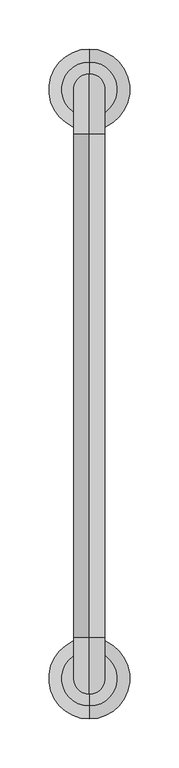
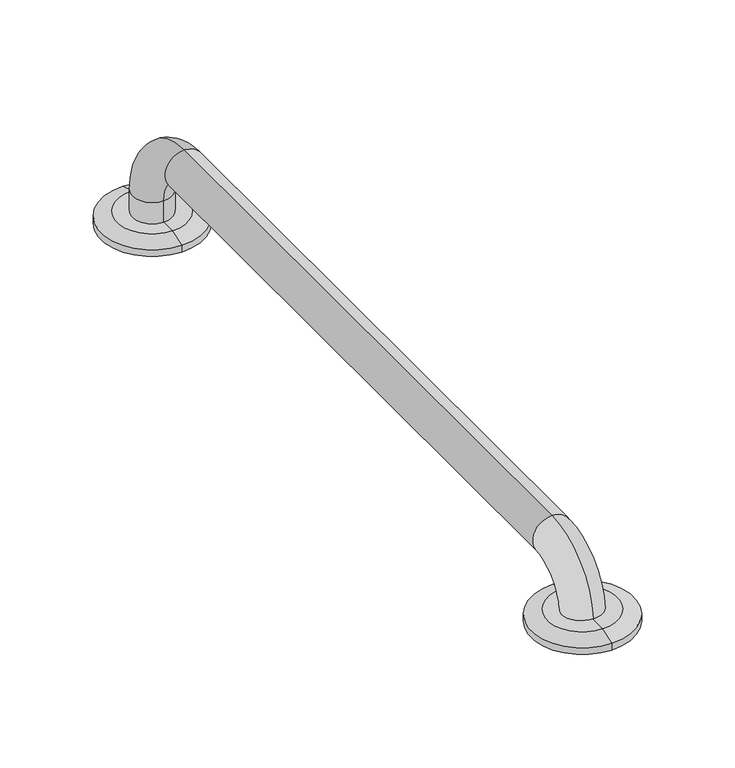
"""IFC4 building model written with IfcOpenShell, lengths in millimetres: flow terminal geometry, GrapBar-60cm-Vitra-OtherSeries-320-3010 : SupportRail-Vitra-OtherSeries-320-3010."""

import ifcopenshell
import ifcopenshell.guid

model = None  # the IFC model being written
_history = None  # IfcOwnerHistory: only IFC2X3 demands one
_inside = {}  # id of a spatial element -> (the spatial element, [elements in it])
_under = {}  # id of a project, library or spatial element -> (it, [spatial elements below it])
_declared = {}  # id of a project -> (the project, [libraries it declares])
_typed = {}  # id of a type object -> (the type object, [elements of that type])
_made_of = {}  # id of a material, layer set ... -> (it, [elements and type objects made of it])


def new_model(schema):
    """Start an empty IFC model of exactly this schema.

    Asked for "IFC4X3", IfcOpenShell would pick the latest addendum, in which some entities
    have other attributes; the version numbers below select the first issue.
    IFC2X3 requires an IfcOwnerHistory on every rooted entity: one is made here for all.
    """
    global model, _history
    if schema == "IFC4X3":
        model = ifcopenshell.file(schema_version=(4, 3, 0, 0))
    else:
        model = ifcopenshell.file(schema=schema)
    _inside.clear()
    _under.clear()
    _declared.clear()
    _typed.clear()
    _made_of.clear()
    _history = None
    if model.schema == "IFC2X3":
        org = make("IfcOrganization", Name="unknown")
        user = make(
            "IfcPersonAndOrganization",
            ThePerson=make("IfcPerson", FamilyName="unknown"),
            TheOrganization=org,
        )
        app = make(
            "IfcApplication",
            ApplicationDeveloper=org,
            Version="unknown",
            ApplicationFullName="unknown",
            ApplicationIdentifier="unknown",
        )
        _history = make(
            "IfcOwnerHistory",
            OwningUser=user,
            OwningApplication=app,
            ChangeAction="ADDED",
            CreationDate=0,
        )
    return model


def make(cls, **values):
    """One entity of the class cls with the attributes given. An attribute that is None is left unset."""
    return model.create_entity(
        cls, **{name: value for name, value in values.items() if value is not None}
    )


def rooted(cls, **values):
    """An entity with a GlobalId (a new one), such as an element, a storey or a relation."""
    return make(cls, GlobalId=ifcopenshell.guid.new(), OwnerHistory=_history, **values)


def si_unit(unit_type, name, prefix=None):
    """IfcSIUnit, for example si_unit("LENGTHUNIT", "METRE", prefix="MILLI")."""
    return make("IfcSIUnit", UnitType=unit_type, Prefix=prefix, Name=name)


def assignment(units):
    """IfcUnitAssignment: the units of a project."""
    return None if units is None else make("IfcUnitAssignment", Units=units)


def point(xyz):
    """IfcCartesianPoint."""
    return None if xyz is None else make("IfcCartesianPoint", Coordinates=xyz)


def direction(xyz):
    """IfcDirection."""
    return None if xyz is None else make("IfcDirection", DirectionRatios=xyz)


def frame(location, z_axis=None, x_axis=None):
    """IfcAxis2Placement3D, a coordinate frame: its origin and axes. An axis left out is left unset."""
    return make(
        "IfcAxis2Placement3D",
        Location=point(location),
        Axis=direction(z_axis),
        RefDirection=direction(x_axis),
    )


def origin():
    """The frame at (0, 0, 0) with its axes left unset."""
    return frame((0.0, 0.0, 0.0))


def place(relative_to, where):
    """IfcLocalPlacement: puts the frame where relative to a parent placement (None: the world)."""
    return make(
        "IfcLocalPlacement", PlacementRelTo=relative_to, RelativePlacement=where
    )


def context(
    kind, dimensions, precision=None, world=None, true_north=None, identifier=None
):
    """IfcGeometricRepresentationContext, for example the 3D "Model" context."""
    return make(
        "IfcGeometricRepresentationContext",
        ContextIdentifier=identifier,
        ContextType=kind,
        CoordinateSpaceDimension=dimensions,
        Precision=precision,
        WorldCoordinateSystem=world,
        TrueNorth=true_north,
    )


def project(units=None, contexts=None):
    """IfcProject with its units and contexts."""
    return rooted(
        "IfcProject",
        Name="project",
        RepresentationContexts=contexts,
        UnitsInContext=assignment(units),
    )


def spatial(cls, under=None, at=None, **own):
    """A site, building, storey or space (cls), placed at a placement, below another one or the project."""
    s = rooted(cls, ObjectPlacement=at, **own)
    if under is not None:
        _under.setdefault(under.id(), (under, []))[1].append(s)
    return s


def polyline(points):
    """IfcPolyline through the points."""
    return make("IfcPolyline", Points=[point(p) for p in points])


def circle_curve(where, radius):
    """IfcCircle in the frame where."""
    return make("IfcCircle", Position=where, Radius=radius)


def ellipse_curve(where, semi_axis1, semi_axis2):
    """IfcEllipse in the frame where."""
    return make(
        "IfcEllipse", Position=where, SemiAxis1=semi_axis1, SemiAxis2=semi_axis2
    )


def trimmed(basis, trim1, trim2, sense, master):
    """IfcTrimmedCurve: the piece of a basis curve between two trims."""
    return make(
        "IfcTrimmedCurve",
        BasisCurve=basis,
        Trim1=trim1,
        Trim2=trim2,
        SenseAgreement=sense,
        MasterRepresentation=master,
    )


def shape(context_of_items, identifier, shape_type, items):
    """IfcShapeRepresentation: the items that make up one representation, for example the "Body"."""
    return make(
        "IfcShapeRepresentation",
        ContextOfItems=context_of_items,
        RepresentationIdentifier=identifier,
        RepresentationType=shape_type,
        Items=items,
    )


def source(mapping_origin, context_of_items, identifier, shape_type, items):
    """IfcRepresentationMap: a shape defined once, which mapped items show again and again."""
    return make(
        "IfcRepresentationMap",
        MappingOrigin=mapping_origin,
        MappedRepresentation=shape(context_of_items, identifier, shape_type, items),
    )


def transform(
    local_origin,
    x_axis=None,
    y_axis=None,
    z_axis=None,
    scale=None,
    scale2=None,
    scale3=None,
    uniform=True,
):
    """IfcCartesianTransformationOperator3D, or its non-uniform kind. x_axis, y_axis, z_axis: its Axis1, 2, 3."""
    if uniform:
        return make(
            "IfcCartesianTransformationOperator3D",
            Axis1=direction(x_axis),
            Axis2=direction(y_axis),
            LocalOrigin=point(local_origin),
            Scale=scale,
            Axis3=direction(z_axis),
        )
    return make(
        "IfcCartesianTransformationOperator3DnonUniform",
        Axis1=direction(x_axis),
        Axis2=direction(y_axis),
        LocalOrigin=point(local_origin),
        Scale=scale,
        Axis3=direction(z_axis),
        Scale2=scale2,
        Scale3=scale3,
    )


def mapped(mapping_source, mapping_target):
    """IfcMappedItem: shows the shape of a source again, moved by a transform."""
    return make(
        "IfcMappedItem", MappingSource=mapping_source, MappingTarget=mapping_target
    )


def made_of(thing, what):
    """Note that an element or type object is made of a material, layer set ...; save() writes the relation."""
    if what is not None:
        _made_of.setdefault(what.id(), (what, []))[1].append(thing)
    return thing


def element(
    cls,
    number,
    at=None,
    inside=None,
    cuts=None,
    type_object=None,
    material=None,
    context=None,
    identifier="Body",
    shape_type=None,
    held_by="IfcProductDefinitionShape",
    body=None,
    shapes=None,
    **own,
):
    """One element of the class cls, such as IfcWall. Its Tag is "e" and its number.

    at: its placement. inside: the storey or other place that contains it. cuts: it is an
    opening in that element (IfcRelVoidsElement). A single representation is given by context,
    identifier, shape_type and body (its items); several are given by shapes. held_by: the class
    of the entity that holds the representations. save() writes the other relations.
    """
    e = rooted(cls, Tag="e%d" % number, ObjectPlacement=at, **own)
    if body is not None:
        shapes = [shape(context, identifier, shape_type, body)]
    if shapes is not None:
        e.Representation = make(held_by, Representations=shapes)
    if inside is not None:
        _inside.setdefault(inside.id(), (inside, []))[1].append(e)
    if cuts is not None:
        rooted(
            "IfcRelVoidsElement", RelatingBuildingElement=cuts, RelatedOpeningElement=e
        )
    if type_object is not None:
        _typed.setdefault(type_object.id(), (type_object, []))[1].append(e)
    return made_of(e, material)


def aggregate(whole, parts):
    """IfcRelAggregates: a whole, such as a stair, and the parts it consists of."""
    return rooted("IfcRelAggregates", RelatingObject=whole, RelatedObjects=parts)


def save(model, path):
    """Write the relations noted so far, then the file.

    IfcRelAggregates (storeys below a building ...), IfcRelContainedInSpatialStructure (elements
    in a storey), IfcRelDefinesByType, IfcRelAssociatesMaterial and IfcRelDeclares: one each for
    every whole, place, type object, material and project.
    """
    for whole, parts in _under.values():
        aggregate(whole, parts)
    for where, things in _inside.values():
        rooted(
            "IfcRelContainedInSpatialStructure",
            RelatedElements=things,
            RelatingStructure=where,
        )
    for kind, things in _typed.values():
        rooted("IfcRelDefinesByType", RelatedObjects=things, RelatingType=kind)
    for what, things in _made_of.values():
        rooted("IfcRelAssociatesMaterial", RelatedObjects=things, RelatingMaterial=what)
    for by, libraries in _declared.values():
        rooted("IfcRelDeclares", RelatingContext=by, RelatedDefinitions=libraries)
    model.write(path)


def plane_surface(at):
    """IfcPlane: the flat surface through the origin of the frame at, square to its z axis."""
    return make("IfcPlane", Position=at)


def cylinder_surface(at, radius):
    """IfcCylindricalSurface: all points at the distance radius from the z axis of the frame at."""
    return make("IfcCylindricalSurface", Position=at, Radius=radius)


def revolved_surface(curve, axis_point, axis_direction):
    """IfcSurfaceOfRevolution: the curve turned about the line through axis_point along axis_direction."""
    return make(
        "IfcSurfaceOfRevolution",
        SweptCurve=make("IfcArbitraryOpenProfileDef", ProfileType="CURVE", Curve=curve),
        AxisPosition=make("IfcAxis1Placement", Location=point(axis_point), Axis=direction(axis_direction)),
    )


def advanced_brep(points, edges, surfaces, faces):
    """IfcAdvancedBrep: a solid bounded by faces that lie on surfaces and meet in shared edges.

    An edge is (start, end): straight between two places in points (the first is 0);
    or (start, end, curve); or (start, end, curve, False) where it runs against its curve.
    A face is (place in surfaces, loops), or (place, loops, False) where it looks against
    its surface's normal. A loop lists edges by number (the first is 1), with a minus sign
    where the edge is run from its end to its start. The first loop is the outer one.
    """
    corners = [point(p) for p in points]
    vertices = [make("IfcVertexPoint", VertexGeometry=c) for c in corners]
    made = []
    for start, end, *more in edges:
        made.append(
            make(
                "IfcEdgeCurve",
                EdgeStart=vertices[start],
                EdgeEnd=vertices[end],
                EdgeGeometry=more[0] if more else make("IfcPolyline", Points=[corners[start], corners[end]]),
                SameSense=more[1] if len(more) > 1 else True,
            )
        )
    hull = []
    for where, loops, *sense in faces:
        bounds = []
        for j, loop in enumerate(loops):
            ring = [make("IfcOrientedEdge", EdgeElement=made[abs(k) - 1], Orientation=k > 0) for k in loop]
            bounds.append(
                make(
                    "IfcFaceOuterBound" if j == 0 else "IfcFaceBound",
                    Bound=make("IfcEdgeLoop", EdgeList=ring),
                    Orientation=True,
                )
            )
        hull.append(make("IfcAdvancedFace", Bounds=bounds, FaceSurface=surfaces[where], SameSense=sense[0] if sense else True))
    return make("IfcAdvancedBrep", Outer=make("IfcClosedShell", CfsFaces=hull))


def flow_terminal_b75d90eb(model_context):
    return source(origin(), model_context, "Body", "AdvancedBrep", [
        advanced_brep(
        [(-1.6, 271.9462683, 10.05625), (-1.6, 284.0, 10.05625), (-1.6, 316.0, 10.05625), (-1.6, 328.0537317, 10.05625), (-1.6, 341.2537317, 5.8762664), (-1.6, 258.7462683, 5.8762664), (-1.6, 341.2537317, 0.05625), (-1.6, 258.7462683, 0.05625), (-1.6, 300.0, 0.05625), (-1.6, 316.0, 28.2511186), (-1.6, 284.0, 28.2511186), (-1.6, 255.0, 89.2511186), (-1.6, 255.0, 57.2511186), (-1.6, -258.0, 89.2511186), (-1.6, -258.0, 57.2511186), (-1.6, -284.0718819, 33.5413066), (-1.6, -315.9281181, 36.5711934)],
        [
            (0, 1),
            (1, 2, circle_curve(frame((-1.6, 300.0, 10.05625), z_axis=(0.0, 0.0, -1.0), x_axis=(0.0, 1.0, 0.0)), 16.0)),
            (2, 3),
            (3, 0, circle_curve(frame((-1.6, 300.0, 10.05625), z_axis=(0.0, 0.0, 1.0), x_axis=(0.0, 1.0, 0.0)), 28.0537317)),
            (2, 1, circle_curve(frame((-1.6, 300.0, 10.05625), z_axis=(0.0, 0.0, -1.0), x_axis=(0.0, 1.0, 0.0)), 16.0)),
            (0, 3, circle_curve(frame((-1.6, 300.0, 10.05625), z_axis=(0.0, 0.0, 1.0), x_axis=(0.0, 1.0, 0.0)), 28.0537317)),
            (3, 4),
            (4, 5, circle_curve(frame((-1.6, 300.0, 5.8762664), z_axis=(0.0, 0.0, 1.0), x_axis=(0.0, 1.0, 0.0)), 41.2537317)),
            (5, 0),
            (5, 4, circle_curve(frame((-1.6, 300.0, 5.8762664), z_axis=(0.0, 0.0, 1.0), x_axis=(0.0, 1.0, 0.0)), 41.2537317)),
            (4, 6),
            (6, 7, circle_curve(frame((-1.6, 300.0, 0.05625), z_axis=(0.0, 0.0, 1.0), x_axis=(0.0, 1.0, 0.0)), 41.2537317)),
            (7, 5),
            (7, 6, circle_curve(frame((-1.6, 300.0, 0.05625), z_axis=(0.0, 0.0, 1.0), x_axis=(0.0, 1.0, 0.0)), 41.2537317)),
            (6, 8),
            (8, 7),
            (2, 9),
            (9, 10, circle_curve(frame((-1.6, 300.0, 28.2511186), z_axis=(0.0, 0.0, -1.0), x_axis=(0.0, 1.0, 0.0)), 16.0)),
            (10, 1),
            (10, 9, circle_curve(frame((-1.6, 300.0, 28.2511186), z_axis=(0.0, 0.0, -1.0), x_axis=(0.0, 1.0, 0.0)), 16.0)),
            (9, 11, circle_curve(frame((-1.6, 255.0, 28.2511186), z_axis=(1.0, 0.0, 0.0), x_axis=(0.0, 1.0, 0.0)), 61.0)),
            (11, 12, circle_curve(frame((-1.6, 255.0, 73.2511186), z_axis=(0.0, 1.0, 0.0), x_axis=(0.0, 0.0, 1.0)), 16.0)),
            (12, 10, circle_curve(frame((-1.6, 255.0, 28.2511186), z_axis=(-1.0, 0.0, 0.0), x_axis=(0.0, 1.0, 0.0)), 29.0)),
            (12, 11, circle_curve(frame((-1.6, 255.0, 73.2511186), z_axis=(0.0, 1.0, 0.0), x_axis=(0.0, 0.0, 1.0)), 16.0)),
            (11, 13),
            (13, 14, circle_curve(frame((-1.6, -258.0, 73.2511186), z_axis=(0.0, 1.0, 0.0), x_axis=(0.0, 0.0, 1.0)), 16.0)),
            (14, 12),
            (14, 13, circle_curve(frame((-1.6, -258.0, 73.2511186), z_axis=(0.0, 1.0, 0.0), x_axis=(0.0, 0.0, 1.0)), 16.0)),
            (15, 16, circle_curve(frame((-1.6, -300.0, 35.05625), z_axis=(0.0, -0.09468396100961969, -0.9955073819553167), x_axis=(0.0, -0.9955073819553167, 0.09468396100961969)), 16.0)),
            (16, 15, circle_curve(frame((-1.6, -300.0, 35.05625), z_axis=(0.0, -0.09468396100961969, -0.9955073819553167), x_axis=(0.0, -0.9955073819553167, 0.09468396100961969)), 16.0)),
            (13, 16, circle_curve(frame((-1.6, -258.0, 31.0615771), z_axis=(1.0, 0.0, 0.0), x_axis=(0.0, 0.0, 1.0)), 58.1895415)),
            (15, 14, circle_curve(frame((-1.6, -258.0, 31.0615771), z_axis=(-1.0, 0.0, 0.0), x_axis=(0.0, 0.0, 1.0)), 26.1895415)),
        ],
        [
            plane_surface(frame((-1.6, 300.0, 10.05625), z_axis=(0.0, 0.0, 1.0), x_axis=(0.0, 1.0, 0.0))),
            revolved_surface(polyline([(-1.6, 328.0537317, 10.05625), (-1.6, 341.2537317, 5.8762664)]), (-1.6, 300.0, 0.05625), (0.0, 0.0, -1.0)),
            cylinder_surface(frame((-1.6, 300.0, 0.05625), z_axis=(0.0, 0.0, -1.0), x_axis=(0.0, 1.0, 0.0)), 41.2537317),
            plane_surface(frame((-1.6, 300.0, 0.05625), z_axis=(0.0, 0.0, -1.0), x_axis=(0.0, 1.0, 0.0))),
            cylinder_surface(frame((-1.6, 300.0, 10.05625), z_axis=(0.0, 0.0, -1.0), x_axis=(0.0, 1.0, 0.0)), 16.0),
            revolved_surface(trimmed(ellipse_curve(frame((-1.6, 300.0, 28.2511186), z_axis=(0.0, 0.0, 1.0), x_axis=(0.0, 1.0, 0.0)), 16.0, 16.0), [point((-1.6, 284.0, 28.2511186))], [point((-1.6, 316.0, 28.2511186))], True, "CARTESIAN"), (-1.6, 255.0, 28.2511186), (-1.0, 0.0, 0.0)),
            revolved_surface(trimmed(ellipse_curve(frame((-1.6, 300.0, 28.2511186), z_axis=(0.0, 0.0, 1.0), x_axis=(0.0, 1.0, 0.0)), 16.0, 16.0), [point((-1.6, 316.0, 28.2511186))], [point((-1.6, 284.0, 28.2511186))], True, "CARTESIAN"), (-1.6, 255.0, 28.2511186), (-1.0, 0.0, 0.0)),
            cylinder_surface(frame((-1.6, 255.0, 73.2511186), z_axis=(0.0, 1.0, 0.0), x_axis=(0.0, 0.0, 1.0)), 16.0),
            plane_surface(frame((-1.6, -300.0, 35.05625), z_axis=(0.0, -0.09468396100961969, -0.9955073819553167), x_axis=(1.0, 0.0, 0.0))),
            revolved_surface(trimmed(ellipse_curve(frame((-1.6, -258.0, 73.2511186), z_axis=(0.0, -1.0, 0.0), x_axis=(0.0, 0.0, 1.0)), 16.0, 16.0), [point((-1.6, -258.0, 57.2511186))], [point((-1.6, -258.0, 89.2511186))], True, "CARTESIAN"), (-1.6, -258.0, 31.0615771), (-1.0, 0.0, 0.0)),
            revolved_surface(trimmed(ellipse_curve(frame((-1.6, -258.0, 73.2511186), z_axis=(0.0, -1.0, 0.0), x_axis=(0.0, 0.0, 1.0)), 16.0, 16.0), [point((-1.6, -258.0, 89.2511186))], [point((-1.6, -258.0, 57.2511186))], True, "CARTESIAN"), (-1.6, -258.0, 31.0615771), (-1.0, 0.0, 0.0)),
        ],
        [
            (0, [[1, 2, 3, 4]]),
            (0, [[-3, 5, -1, 6]]),
            (1, [[7, 8, 9, -4]]),
            (1, [[-9, 10, -7, -6]]),
            (2, [[11, 12, 13, -8]]),
            (2, [[-13, 14, -11, -10]]),
            (3, [[15, 16, -12]]),
            (3, [[-16, -15, -14]]),
            (4, [[-5, 17, 18, 19]]),
            (4, [[20, -17, -2, -19]]),
            (5, [[21, 22, 23, -18]]),
            (6, [[-23, 24, -21, -20]]),
            (7, [[25, 26, 27, -22]]),
            (7, [[-27, 28, -25, -24]]),
            (8, [[29, 30]]),
            (9, [[31, -29, 32, -26]]),
            (10, [[-32, -30, -31, -28]]),
        ],
    ),
        advanced_brep(
        [(-1.6, -328.0537317, 35.05625), (-1.6, -300.0, 35.05625), (-1.6, -271.9462683, 35.05625), (-1.6, -341.2537317, 30.8762664), (-1.6, -258.7462683, 30.8762664), (-1.6, -341.2537317, 25.05625), (-1.6, -258.7462683, 25.05625), (-1.6, -300.0, 25.05625)],
        [
            (0, 1),
            (1, 2),
            (2, 0, circle_curve(frame((-1.6, -300.0, 35.05625), z_axis=(0.0, 0.0, 1.0), x_axis=(0.0, 1.0, 0.0)), 28.0537317)),
            (0, 2, circle_curve(frame((-1.6, -300.0, 35.05625), z_axis=(0.0, 0.0, 1.0), x_axis=(0.0, 1.0, 0.0)), 28.0537317)),
            (3, 0),
            (2, 4),
            (4, 3, circle_curve(frame((-1.6, -300.0, 30.8762664), z_axis=(0.0, 0.0, 1.0), x_axis=(0.0, 1.0, 0.0)), 41.2537317)),
            (3, 4, circle_curve(frame((-1.6, -300.0, 30.8762664), z_axis=(0.0, 0.0, 1.0), x_axis=(0.0, 1.0, 0.0)), 41.2537317)),
            (5, 3),
            (4, 6),
            (6, 5, circle_curve(frame((-1.6, -300.0, 25.05625), z_axis=(0.0, 0.0, 1.0), x_axis=(0.0, 1.0, 0.0)), 41.2537317)),
            (5, 6, circle_curve(frame((-1.6, -300.0, 25.05625), z_axis=(0.0, 0.0, 1.0), x_axis=(0.0, 1.0, 0.0)), 41.2537317)),
            (7, 5),
            (6, 7),
        ],
        [
            plane_surface(frame((-1.6, -300.0, 35.05625), z_axis=(0.0, 0.0, 1.0), x_axis=(0.0, 1.0, 0.0))),
            revolved_surface(polyline([(-1.6, -271.9462683, 35.05625), (-1.6, -258.7462683, 30.8762664)]), (-1.6, -300.0, 25.05625), (0.0, 0.0, -1.0)),
            cylinder_surface(frame((-1.6, -300.0, 25.05625), z_axis=(0.0, 0.0, -1.0), x_axis=(0.0, 1.0, 0.0)), 41.2537317),
            plane_surface(frame((-1.6, -300.0, 25.05625), z_axis=(0.0, 0.0, -1.0), x_axis=(0.0, 1.0, 0.0))),
        ],
        [
            (0, [[1, 2, 3]]),
            (0, [[-2, -1, 4]]),
            (1, [[5, -3, 6, 7]]),
            (1, [[-6, -4, -5, 8]]),
            (2, [[9, -7, 10, 11]]),
            (2, [[-10, -8, -9, 12]]),
            (3, [[13, -11, 14]]),
            (3, [[-14, -12, -13]]),
        ],
    ),
    ])


if __name__ == "__main__":
    model = new_model("IFC4")
    model_context = context("Model", 3, world=origin())
    ifc_project = project(units=[si_unit("LENGTHUNIT", "METRE", prefix="MILLI")], contexts=[model_context])
    site = spatial("IfcSite", under=ifc_project)
    building = spatial("IfcBuilding", under=site)
    placement = place(None, origin())
    flow_terminal_shape = flow_terminal_b75d90eb(model_context)
    element("IfcFlowTerminal", 1, ObjectType="GrapBar-60cm-Vitra-OtherSeries-320-3010 : SupportRail-Vitra-OtherSeries-320-3010", at=placement, inside=building, context=model_context, shape_type="MappedRepresentation", body=[
        mapped(flow_terminal_shape, transform((0.0, 0.0, 0.0), x_axis=(1.0, 0.0, 0.0), y_axis=(0.0, 1.0, 0.0), z_axis=(0.0, 0.0, 1.0))),
    ])
    save(model, "model.ifc")
